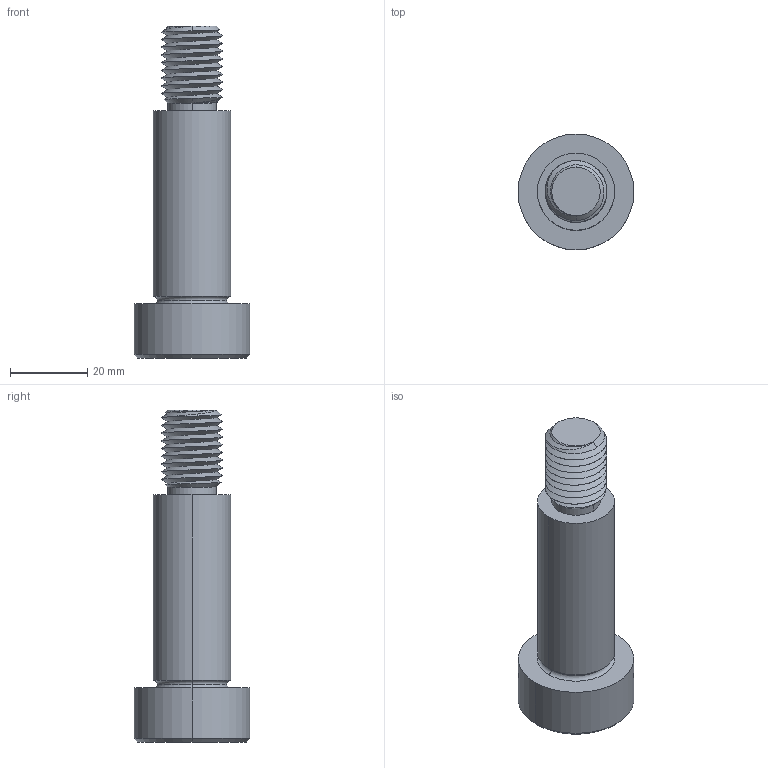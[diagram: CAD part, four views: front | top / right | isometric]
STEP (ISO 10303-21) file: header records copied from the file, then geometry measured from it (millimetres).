
FILE_DESCRIPTION (( 'STEP AP203' ), '1' );
FILE_NAME ('P0130.200-050-B2.step', '2021-11-09T22:23:08', ( '' ), ( '' ), 'SwSTEP 2.0', 'SolidWorks 2019', '' );
FILE_SCHEMA (( 'CONFIG_CONTROL_DESIGN' ));
Length unit declared in the file: millimetre
Products named in the file (1): P0130.200-050-B2
Bounding box: 30 x 30 x 86 mm (x, y, z)
Volume: 27915.4 mm3; surface area: 8045.5 mm2
Topology: 1 solids, 1 shells, 60 faces, 142 edges, 85 vertices
Faces by surface type: cylinder 24, plane 16, cone 14, torus 4, bspline 2
Entity records: 5678 total; most frequent: CARTESIAN_POINT 4332, ORIENTED_EDGE 280, DIRECTION 247, EDGE_CURVE 140, AXIS2_PLACEMENT_3D 99, VERTEX_POINT 85, EDGE_LOOP 63, FACE_OUTER_BOUND 60
